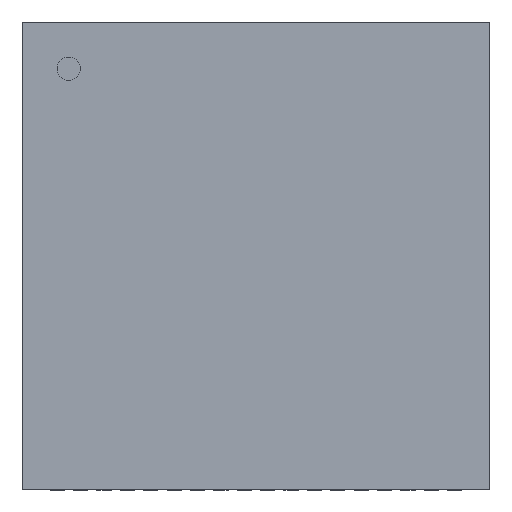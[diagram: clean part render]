
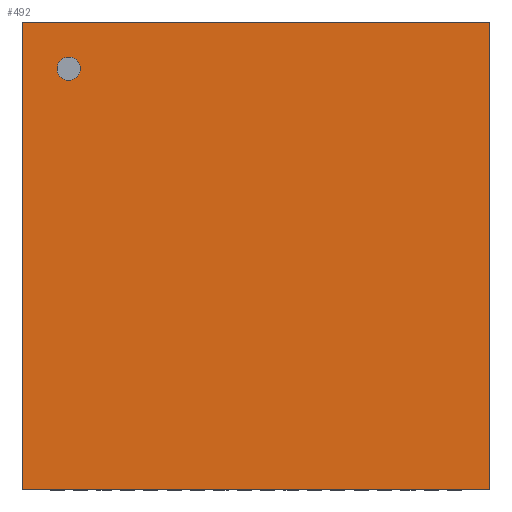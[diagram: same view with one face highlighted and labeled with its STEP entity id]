
A CAD part, top view. The second image highlights one B-rep face of the part: STEP entity #492.
In plain terms, the highlighted planar face has unit normal (0, 0, 1).
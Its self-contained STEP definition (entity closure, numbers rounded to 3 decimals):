
#268=CARTESIAN_POINT('',(5.004,-5.004,0.889));
#267=VERTEX_POINT('',#268);
#278=CARTESIAN_POINT('',(-5.004,-5.004,0.889));
#277=VERTEX_POINT('',#278);
#276=EDGE_CURVE('',#277,#267,#281,.T.);
#281=LINE('',#278,#283);
#283=VECTOR('',#284,10.008);
#284=DIRECTION('',(1.0,0.0,0.0));
#317=CARTESIAN_POINT('',(5.004,5.004,0.889));
#316=VERTEX_POINT('',#317);
#325=EDGE_CURVE('',#267,#316,#330,.T.);
#330=LINE('',#268,#332);
#332=VECTOR('',#333,10.008);
#333=DIRECTION('',(0.0,1.0,0.0));
#366=CARTESIAN_POINT('',(-5.004,5.004,0.889));
#365=VERTEX_POINT('',#366);
#374=EDGE_CURVE('',#316,#365,#379,.T.);
#379=LINE('',#317,#381);
#381=VECTOR('',#382,10.008);
#382=DIRECTION('',(-1.0,0.0,0.0));
#423=EDGE_CURVE('',#365,#277,#428,.T.);
#428=LINE('',#366,#430);
#430=VECTOR('',#431,10.008);
#431=DIRECTION('',(0.0,-1.0,0.0));
#492=ADVANCED_FACE('',(#498),#493,.T.);
#493=PLANE('',#494);
#494=AXIS2_PLACEMENT_3D('',#495,#496,#497);
#495=CARTESIAN_POINT('',(-5.004,-5.004,0.889));
#496=DIRECTION('',(0.0,0.0,1.0));
#497=DIRECTION('',(0.,1.,0.));
#498=FACE_OUTER_BOUND('',#499,.T.);
#499=EDGE_LOOP('',(#500,#510,#520,#530));
#500=ORIENTED_EDGE('',*,*,#276,.T.);
#510=ORIENTED_EDGE('',*,*,#325,.T.);
#520=ORIENTED_EDGE('',*,*,#374,.T.);
#530=ORIENTED_EDGE('',*,*,#423,.T.);
